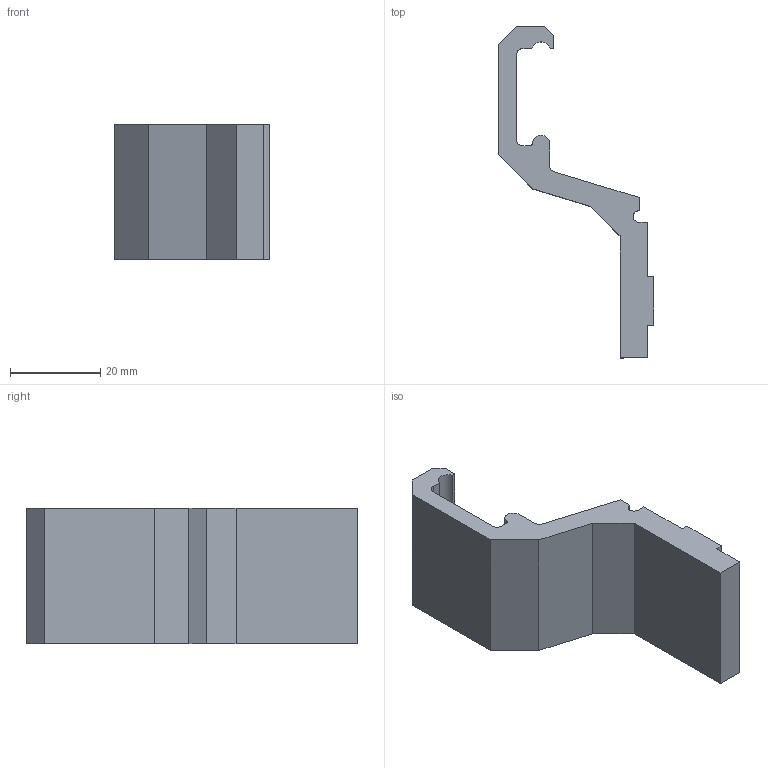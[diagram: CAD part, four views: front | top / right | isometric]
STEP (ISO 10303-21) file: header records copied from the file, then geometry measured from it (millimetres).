
FILE_DESCRIPTION (( 'STEP AP214' ), '1' );
FILE_NAME ('FGRB 29X36.step', '2017-04-05T07:37:49', ( '' ), ( '' ), 'SwSTEP 2.0', 'SolidWorks 2015', '' );
FILE_SCHEMA (( 'AUTOMOTIVE_DESIGN' ));
Length unit declared in the file: millimetre
Products named in the file (1): FGRB 29X36
Bounding box: 34.5 x 73.5 x 30 mm (x, y, z)
Volume: 16201.8 mm3; surface area: 7574.7 mm2
Topology: 1 solids, 1 shells, 33 faces, 93 edges, 62 vertices
Faces by surface type: plane 25, cylinder 8
Entity records: 1097 total; most frequent: CARTESIAN_POINT 189, ORIENTED_EDGE 186, DIRECTION 177, EDGE_CURVE 93, LINE 77, VECTOR 77, VERTEX_POINT 62, AXIS2_PLACEMENT_3D 50
